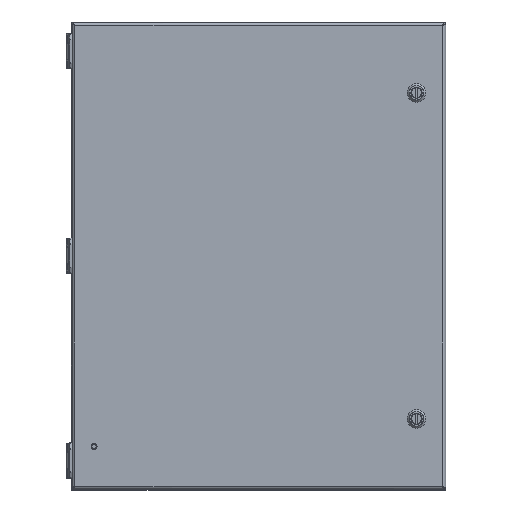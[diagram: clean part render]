
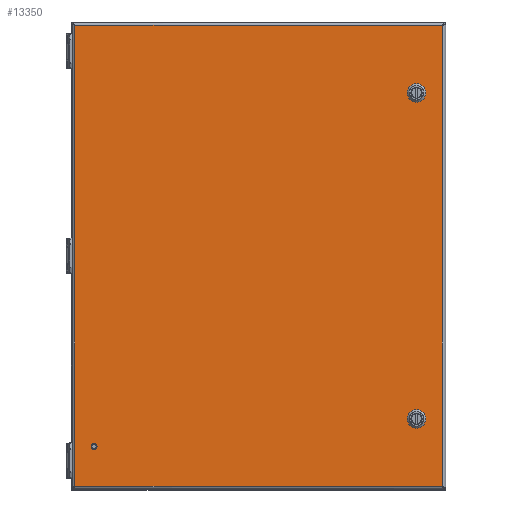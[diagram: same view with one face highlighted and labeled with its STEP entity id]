
A CAD part, top view. The second image highlights one B-rep face of the part: STEP entity #13350.
In plain terms, the highlighted planar face has unit normal (0, 0, 1).
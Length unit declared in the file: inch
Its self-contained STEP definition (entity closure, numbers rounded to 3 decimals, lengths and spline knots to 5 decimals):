
#10885=CARTESIAN_POINT('',(-7.035,-8.16,0.81));
#10886=DIRECTION('',(0.,0.,1.));
#10887=DIRECTION('',(-1.,0.,0.));
#10888=AXIS2_PLACEMENT_3D('',#10885,#10886,#10887);
#10893=CARTESIAN_POINT('',(-7.035,-8.16,0.81));
#10894=DIRECTION('',(0.,0.,1.));
#10895=DIRECTION('',(1.,0.,0.));
#10896=AXIS2_PLACEMENT_3D('',#10893,#10894,#10895);
#10901=DIRECTION('',(0.707,0.707,0.));
#10902=VECTOR('',#10901,0.30984);
#10903=CARTESIAN_POINT('',(6.44447,7.05845,0.81));
#10904=LINE('',#10903,#10902);
#10908=CARTESIAN_POINT('',(6.752,6.97,0.81));
#10909=DIRECTION('',(0.,0.,1.));
#10910=DIRECTION('',(-0.961,0.276,0.));
#10911=AXIS2_PLACEMENT_3D('',#10908,#10909,#10910);
#10916=DIRECTION('',(-0.707,0.707,0.));
#10917=VECTOR('',#10916,0.30984);
#10918=CARTESIAN_POINT('',(6.66355,6.66247,0.81));
#10919=LINE('',#10918,#10917);
#10923=CARTESIAN_POINT('',(6.752,6.97,0.81));
#10924=DIRECTION('',(0.,0.,1.));
#10925=DIRECTION('',(-0.276,-0.961,0.));
#10926=AXIS2_PLACEMENT_3D('',#10923,#10924,#10925);
#10931=DIRECTION('',(-0.707,-0.707,0.));
#10932=VECTOR('',#10931,0.30984);
#10933=CARTESIAN_POINT('',(7.05953,6.88155,0.81));
#10934=LINE('',#10933,#10932);
#10938=CARTESIAN_POINT('',(6.752,6.97,0.81));
#10939=DIRECTION('',(0.,0.,1.));
#10940=DIRECTION('',(0.961,-0.276,0.));
#10941=AXIS2_PLACEMENT_3D('',#10938,#10939,#10940);
#10946=DIRECTION('',(0.707,-0.707,0.));
#10947=VECTOR('',#10946,0.30984);
#10948=CARTESIAN_POINT('',(6.84045,7.27753,0.81));
#10949=LINE('',#10948,#10947);
#10953=CARTESIAN_POINT('',(6.752,6.97,0.81));
#10954=DIRECTION('',(0.,0.,1.));
#10955=DIRECTION('',(0.276,0.961,0.));
#10956=AXIS2_PLACEMENT_3D('',#10953,#10954,#10955);
#10961=DIRECTION('',(0.707,0.707,0.));
#10962=VECTOR('',#10961,0.30984);
#10963=CARTESIAN_POINT('',(6.44447,-6.88155,0.81));
#10964=LINE('',#10963,#10962);
#10968=CARTESIAN_POINT('',(6.752,-6.97,0.81));
#10969=DIRECTION('',(0.,0.,1.));
#10970=DIRECTION('',(-0.961,0.276,0.));
#10971=AXIS2_PLACEMENT_3D('',#10968,#10969,#10970);
#10976=DIRECTION('',(-0.707,0.707,0.));
#10977=VECTOR('',#10976,0.30984);
#10978=CARTESIAN_POINT('',(6.66355,-7.27753,0.81));
#10979=LINE('',#10978,#10977);
#10983=CARTESIAN_POINT('',(6.752,-6.97,0.81));
#10984=DIRECTION('',(0.,0.,1.));
#10985=DIRECTION('',(-0.276,-0.961,0.));
#10986=AXIS2_PLACEMENT_3D('',#10983,#10984,#10985);
#10991=DIRECTION('',(-0.707,-0.707,0.));
#10992=VECTOR('',#10991,0.30984);
#10993=CARTESIAN_POINT('',(7.05953,-7.05845,0.81));
#10994=LINE('',#10993,#10992);
#10998=CARTESIAN_POINT('',(6.752,-6.97,0.81));
#10999=DIRECTION('',(0.,0.,1.));
#11000=DIRECTION('',(0.961,-0.276,0.));
#11001=AXIS2_PLACEMENT_3D('',#10998,#10999,#11000);
#11006=DIRECTION('',(0.707,-0.707,0.));
#11007=VECTOR('',#11006,0.30984);
#11008=CARTESIAN_POINT('',(6.84045,-6.66247,0.81));
#11009=LINE('',#11008,#11007);
#11013=CARTESIAN_POINT('',(6.752,-6.97,0.81));
#11014=DIRECTION('',(0.,0.,1.));
#11015=DIRECTION('',(0.276,0.961,0.));
#11016=AXIS2_PLACEMENT_3D('',#11013,#11014,#11015);
#11021=DIRECTION('',(1.,0.,0.));
#11022=VECTOR('',#11021,15.7);
#11023=CARTESIAN_POINT('',(-7.85,-9.85,0.81));
#11024=LINE('',#11023,#11022);
#11110=DIRECTION('',(0.,1.,0.));
#11111=VECTOR('',#11110,19.7);
#11112=CARTESIAN_POINT('',(7.85,-9.85,0.81));
#11113=LINE('',#11112,#11111);
#11159=DIRECTION('',(-1.,0.,0.));
#11160=VECTOR('',#11159,15.7);
#11161=CARTESIAN_POINT('',(7.85,9.85,0.81));
#11162=LINE('',#11161,#11160);
#11255=DIRECTION('',(0.,-1.,0.));
#11256=VECTOR('',#11255,19.7);
#11257=CARTESIAN_POINT('',(-7.85,9.85,0.81));
#11258=LINE('',#11257,#11256);
#12973=CARTESIAN_POINT('',(-7.85,9.85,0.81));
#12974=CARTESIAN_POINT('',(-7.85,-9.85,0.81));
#12975=VERTEX_POINT('',#12973);
#12976=VERTEX_POINT('',#12974);
#12977=CARTESIAN_POINT('',(7.85,-9.85,0.81));
#12978=CARTESIAN_POINT('',(7.85,9.85,0.81));
#12979=VERTEX_POINT('',#12977);
#12980=VERTEX_POINT('',#12978);
#13059=CARTESIAN_POINT('',(-7.13305,-8.16,0.81));
#13060=CARTESIAN_POINT('',(-6.93695,-8.16,0.81));
#13061=VERTEX_POINT('',#13059);
#13062=VERTEX_POINT('',#13060);
#13067=CARTESIAN_POINT('',(6.44447,7.05845,0.81));
#13068=CARTESIAN_POINT('',(6.66355,7.27753,0.81));
#13069=VERTEX_POINT('',#13067);
#13070=VERTEX_POINT('',#13068);
#13071=CARTESIAN_POINT('',(6.84045,7.27753,0.81));
#13072=VERTEX_POINT('',#13071);
#13073=CARTESIAN_POINT('',(7.05953,7.05845,0.81));
#13074=VERTEX_POINT('',#13073);
#13075=CARTESIAN_POINT('',(7.05953,6.88155,0.81));
#13076=VERTEX_POINT('',#13075);
#13077=CARTESIAN_POINT('',(6.84045,6.66247,0.81));
#13078=VERTEX_POINT('',#13077);
#13079=CARTESIAN_POINT('',(6.66355,6.66247,0.81));
#13080=VERTEX_POINT('',#13079);
#13081=CARTESIAN_POINT('',(6.44447,6.88155,0.81));
#13082=VERTEX_POINT('',#13081);
#13107=CARTESIAN_POINT('',(6.44447,-6.88155,0.81));
#13108=CARTESIAN_POINT('',(6.66355,-6.66247,0.81));
#13109=VERTEX_POINT('',#13107);
#13110=VERTEX_POINT('',#13108);
#13111=CARTESIAN_POINT('',(6.84045,-6.66247,0.81));
#13112=VERTEX_POINT('',#13111);
#13113=CARTESIAN_POINT('',(7.05953,-6.88155,0.81));
#13114=VERTEX_POINT('',#13113);
#13115=CARTESIAN_POINT('',(7.05953,-7.05845,0.81));
#13116=VERTEX_POINT('',#13115);
#13117=CARTESIAN_POINT('',(6.84045,-7.27753,0.81));
#13118=VERTEX_POINT('',#13117);
#13119=CARTESIAN_POINT('',(6.66355,-7.27753,0.81));
#13120=VERTEX_POINT('',#13119);
#13121=CARTESIAN_POINT('',(6.44447,-7.05845,0.81));
#13122=VERTEX_POINT('',#13121);
#13293=CARTESIAN_POINT('',(0.,0.,0.81));
#13294=DIRECTION('',(0.,0.,1.));
#13295=DIRECTION('',(1.,0.,0.));
#13296=AXIS2_PLACEMENT_3D('',#13293,#13294,#13295);
#13297=PLANE('',#13296);
#13299=ORIENTED_EDGE('',*,*,#13298,.F.);
#13301=ORIENTED_EDGE('',*,*,#13300,.F.);
#13303=ORIENTED_EDGE('',*,*,#13302,.F.);
#13305=ORIENTED_EDGE('',*,*,#13304,.F.);
#13306=EDGE_LOOP('',(#13299,#13301,#13303,#13305));
#13307=FACE_OUTER_BOUND('',#13306,.F.);
#13309=ORIENTED_EDGE('',*,*,#13308,.T.);
#13311=ORIENTED_EDGE('',*,*,#13310,.T.);
#13312=EDGE_LOOP('',(#13309,#13311));
#13313=FACE_BOUND('',#13312,.F.);
#13315=ORIENTED_EDGE('',*,*,#13314,.F.);
#13317=ORIENTED_EDGE('',*,*,#13316,.T.);
#13319=ORIENTED_EDGE('',*,*,#13318,.F.);
#13321=ORIENTED_EDGE('',*,*,#13320,.T.);
#13323=ORIENTED_EDGE('',*,*,#13322,.F.);
#13325=ORIENTED_EDGE('',*,*,#13324,.T.);
#13327=ORIENTED_EDGE('',*,*,#13326,.F.);
#13329=ORIENTED_EDGE('',*,*,#13328,.T.);
#13330=EDGE_LOOP('',(#13315,#13317,#13319,#13321,#13323,#13325,#13327,#13329));
#13331=FACE_BOUND('',#13330,.F.);
#13333=ORIENTED_EDGE('',*,*,#13332,.F.);
#13335=ORIENTED_EDGE('',*,*,#13334,.T.);
#13337=ORIENTED_EDGE('',*,*,#13336,.F.);
#13339=ORIENTED_EDGE('',*,*,#13338,.T.);
#13341=ORIENTED_EDGE('',*,*,#13340,.F.);
#13343=ORIENTED_EDGE('',*,*,#13342,.T.);
#13345=ORIENTED_EDGE('',*,*,#13344,.F.);
#13347=ORIENTED_EDGE('',*,*,#13346,.T.);
#13348=EDGE_LOOP('',(#13333,#13335,#13337,#13339,#13341,#13343,#13345,#13347));
#13349=FACE_BOUND('',#13348,.F.);
#10889=CIRCLE('',#10888,0.09805);
#10897=CIRCLE('',#10896,0.09805);
#10912=CIRCLE('',#10911,0.32);
#10927=CIRCLE('',#10926,0.32);
#10942=CIRCLE('',#10941,0.32);
#10957=CIRCLE('',#10956,0.32);
#10972=CIRCLE('',#10971,0.32);
#10987=CIRCLE('',#10986,0.32);
#11002=CIRCLE('',#11001,0.32);
#11017=CIRCLE('',#11016,0.32);
#13298=EDGE_CURVE('',#12976,#12979,#11024,.T.);
#13300=EDGE_CURVE('',#12975,#12976,#11258,.T.);
#13302=EDGE_CURVE('',#12980,#12975,#11162,.T.);
#13304=EDGE_CURVE('',#12979,#12980,#11113,.T.);
#13308=EDGE_CURVE('',#13061,#13062,#10889,.T.);
#13310=EDGE_CURVE('',#13062,#13061,#10897,.T.);
#13314=EDGE_CURVE('',#13069,#13070,#10904,.T.);
#13316=EDGE_CURVE('',#13069,#13082,#10912,.T.);
#13318=EDGE_CURVE('',#13080,#13082,#10919,.T.);
#13320=EDGE_CURVE('',#13080,#13078,#10927,.T.);
#13322=EDGE_CURVE('',#13076,#13078,#10934,.T.);
#13324=EDGE_CURVE('',#13076,#13074,#10942,.T.);
#13326=EDGE_CURVE('',#13072,#13074,#10949,.T.);
#13328=EDGE_CURVE('',#13072,#13070,#10957,.T.);
#13332=EDGE_CURVE('',#13109,#13110,#10964,.T.);
#13334=EDGE_CURVE('',#13109,#13122,#10972,.T.);
#13336=EDGE_CURVE('',#13120,#13122,#10979,.T.);
#13338=EDGE_CURVE('',#13120,#13118,#10987,.T.);
#13340=EDGE_CURVE('',#13116,#13118,#10994,.T.);
#13342=EDGE_CURVE('',#13116,#13114,#11002,.T.);
#13344=EDGE_CURVE('',#13112,#13114,#11009,.T.);
#13346=EDGE_CURVE('',#13112,#13110,#11017,.T.);
#13350=ADVANCED_FACE('',(#13307,#13313,#13331,#13349),#13297,.T.);
